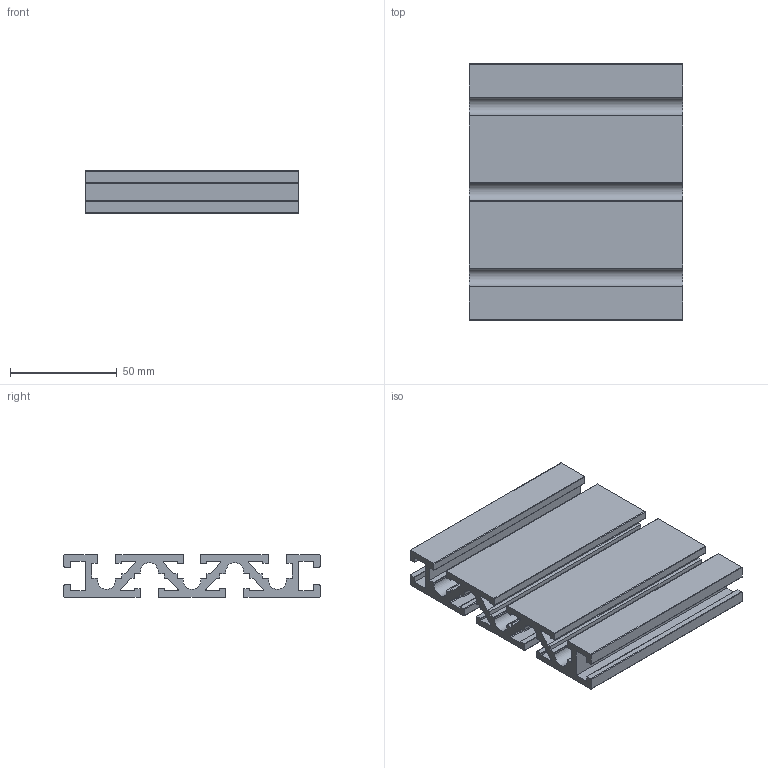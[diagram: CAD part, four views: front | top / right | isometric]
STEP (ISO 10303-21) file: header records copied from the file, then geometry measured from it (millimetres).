
FILE_DESCRIPTION(('STEP AP214'), '1');
FILE_NAME('Ðàáî÷èé ñòîë àëþìèíèåâûé HXB20120-8', '', ('UNSPECIFIED'), ('UNSPECIFIED'), 'ASCON STEP Converter 1.6', 'ASCON Math Kernel', '');
FILE_SCHEMA(('AUTOMOTIVE_DESIGN { 1 0 10303 214 3 1 1}'));
Length unit declared in the file: millimetre
Bounding box: 100 x 120 x 20 mm (x, y, z)
Volume: 111204.5 mm3; surface area: 65686.7 mm2
Topology: 1 solids, 1 shells, 172 faces, 510 edges, 340 vertices
Faces by surface type: plane 109, cylinder 63
Entity records: 7180 total; most frequent: CARTESIAN_POINT 1023, ORIENTED_EDGE 1020, DIRECTION 982, EDGE_CURVE 510, LINE 384, VECTOR 384, VERTEX_POINT 340, AXIS2_PLACEMENT_3D 299
